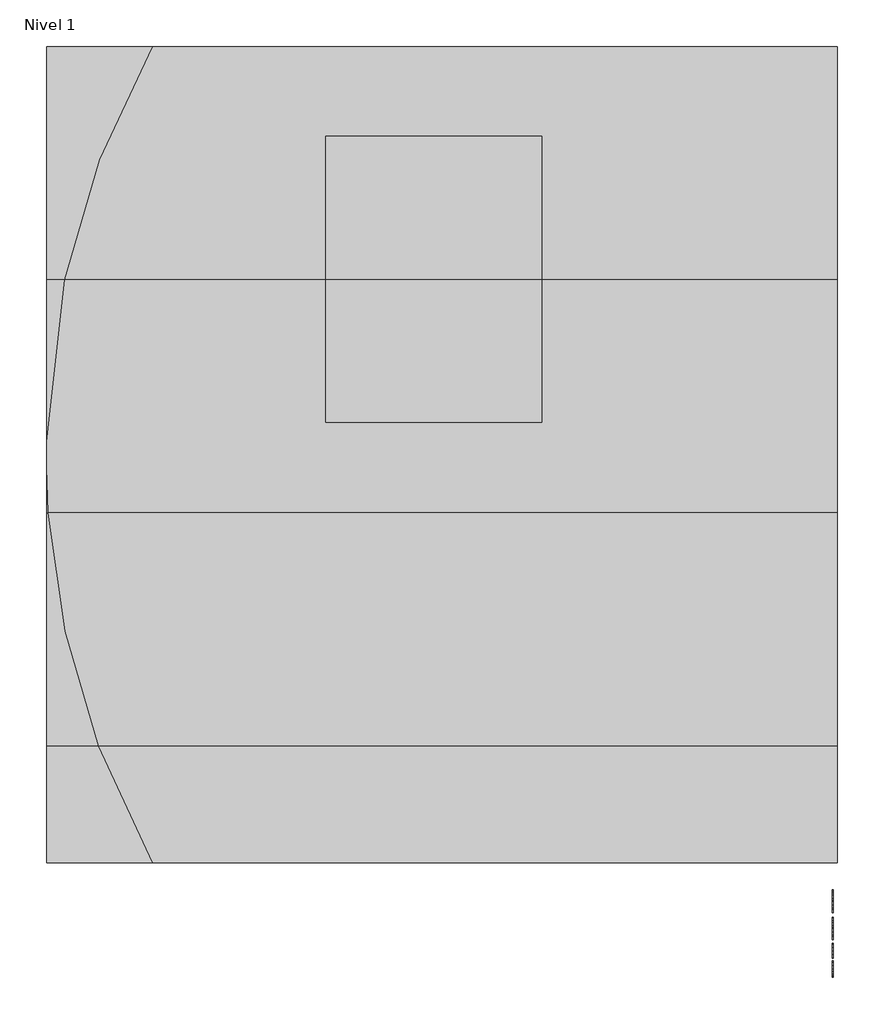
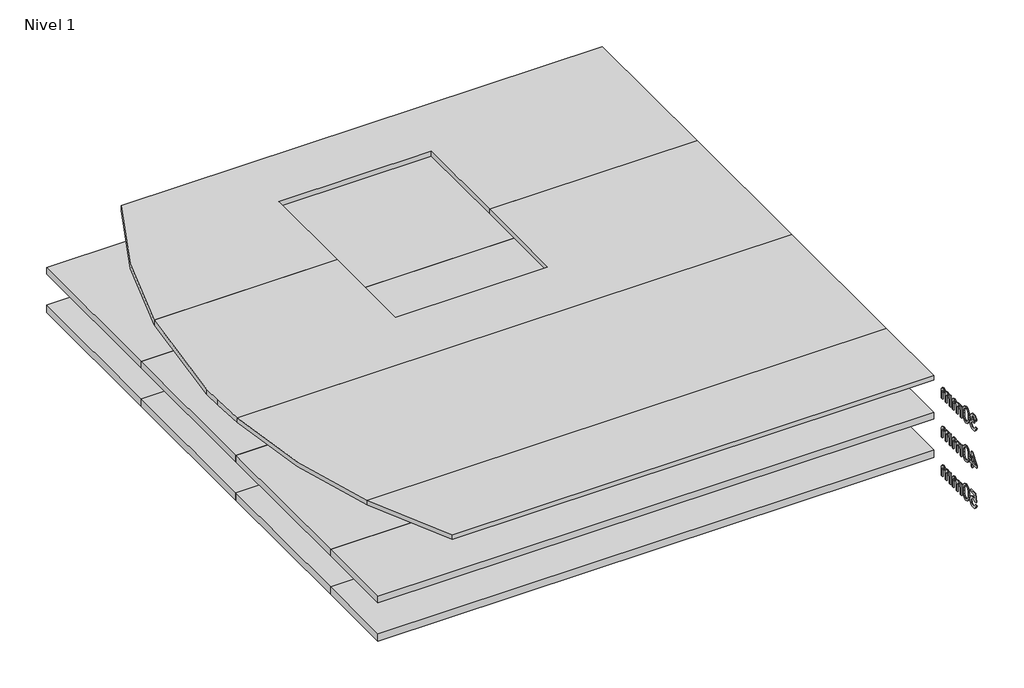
# One storey, incomplete: 12 plates, 3 proxies.
"""IFC4 building model written with IfcOpenShell, lengths in millimetres."""

from ifc_helpers import new_model, si_unit, frame, origin, place, context, project, spatial, polyline, outline, extrude, transform, mapped, element, save
from components import panel_del_sistema_d493ad30, panel_del_sistema_48dafe26, panel_del_sistema_6634fb51, panel_del_sistema_deb14117, panel_del_sistema_14d703db, panel_del_sistema_e4207b6c, panel_del_sistema_6badf2b4, panel_del_sistema_0d385535

model = new_model("IFC4")

# Units and contexts
model_context = context("Model", 3, world=origin())
ifc_project = project(units=[si_unit("LENGTHUNIT", "METRE", prefix="MILLI")], contexts=[model_context])

# Site, building, storey
site = spatial("IfcSite", under=ifc_project)
building = spatial("IfcBuilding", under=site)
storey = spatial("IfcBuildingStorey", under=building, Name="Nivel 1", Elevation=0.0)

# Proxies
placement = place(None, origin())
element("IfcBuildingElementProxy", 1, Name="100mm Arial", ObjectType="100mm Arial", at=placement, inside=storey, context=model_context, shape_type="SweptSolid", body=[
    extrude(outline(polyline([(14811.6332666, -40.4578656), (14824.1903054, -38.8882358), (14831.1187496, -52.1074622), (14844.0804586, -56.1541641), (14852.6888973, -54.7623439), (14859.3352987, -50.5868832), (14865.0006814, -36.8035712), (14859.3843496, -23.8173367), (14845.1105282, -18.6792515), (14836.3058858, -20.0526776), (14837.7038373, -7.4956389), (14839.7149256, -7.6427917), (14853.9642215, -4.0375481), (14858.7098993, 0.5364513), (14860.2917918, 7.0479627), (14855.7055296, 16.8704119), (14843.8842549, 20.7576984), (14831.9158273, 16.8336237), (14825.7599352, 5.0613999), (14813.2028965, 6.6310297), (14816.9001105, 17.9066129), (14823.4790669, 26.3249792), (14832.479913, 31.5672976), (14843.4427965, 33.3147371), (14858.5872719, 29.8689091), (14869.1822734, 20.45113), (14872.8488306, 7.7837267), (14869.3662144, -3.7922935), (14859.0655185, -12.1064266), (14872.7507287, -20.6903398), (14877.5577201, -37.0243004), (14875.1542244, -49.2625081), (14867.9437373, -59.4896275), (14857.0605616, -66.405809), (14843.6390002, -68.7112029), (14831.4988943, -66.7430342), (14821.6151314, -60.8385282), (14814.7418695, -51.8070252), (14811.6332666, -40.4578656)])), frame((9557.0230098, 0.0, 0.0), z_axis=(1.0, 0.0, 0.0), x_axis=(0.0, 1.0, 0.0)), (0.0, 0.0, 1.0), 5.0),
    extrude(outline(polyline([(14888.5451291, -17.7227583), (14892.2362118, 11.1805037), (14903.1990952, 27.8455581), (14921.5073558, 33.3147371), (14936.1735847, 30.0773756), (14946.3026023, 20.7454356), (14952.1887142, 5.883003), (14954.4695826, -17.7227583), (14950.8152881, -46.5033931), (14939.8891929, -63.2052357), (14931.6578332, -67.3347111), (14921.5073558, -68.7112029), (14908.4598077, -66.3199699), (14898.5515193, -59.146271), (14891.0467266, -42.1562542), (14888.5451291, -17.7227583)]), holes=[polyline([(14901.1021678, -17.6982329), (14902.5736958, -37.4504303), (14906.9882798, -48.8823633), (14913.5611047, -54.3362139), (14921.5073558, -56.1541641), (14929.4536069, -54.3300825), (14936.0264319, -48.8578379), (14940.4410159, -37.4197735), (14941.9125438, -17.6982329), (14940.4900668, 1.6094405), (14936.2226356, 13.1302783), (14929.6620734, 18.8508433), (14921.360203, 20.7576984), (14913.4997911, 19.0777039), (14907.1844835, 14.0377206), (14902.6227467, 1.7995129), (14901.1021678, -17.6982329)])]), frame((9557.0230098, 0.0, 0.0), z_axis=(1.0, 0.0, 0.0), x_axis=(0.0, 1.0, 0.0)), (0.0, 0.0, 1.0), 5.0),
    extrude(outline(polyline([(14968.5962512, -67.141573), (14968.5962512, 6.6310297), (14981.15329, 6.6310297), (14981.15329, -5.5090761), (14989.7862541, 4.4360005), (15002.0735128, 8.2006596), (15014.655077, 4.3624241), (15021.5712585, -6.3919929), (15031.3691823, 4.5524965), (15043.7422801, 8.2006596), (15053.181519, 6.6831464), (15060.1620798, 2.1306067), (15064.4754962, -5.5795868), (15065.9133017, -16.5700614), (15065.9133017, -67.141573), (15053.3562629, -67.141573), (15053.3562629, -21.965664), (15052.1913033, -11.4810272), (15047.972923, -6.3184165), (15040.7992241, -4.3563792), (15028.4506518, -9.3840998), (15024.7626348, -15.9262679), (15023.5332958, -25.4973312), (15023.5332958, -67.141573), (15010.9762571, -67.141573), (15010.9762571, -20.5677124), (15008.0699893, -8.4030811), (14998.5418456, -4.3563792), (14989.2466939, -7.0541805), (14983.0662764, -14.9513806), (14981.15329, -29.9364406), (14981.15329, -67.141573), (14968.5962512, -67.141573)])), frame((9557.0230098, 0.0, 0.0), z_axis=(1.0, 0.0, 0.0), x_axis=(0.0, 1.0, 0.0)), (0.0, 0.0, 1.0), 5.0),
    extrude(outline(polyline([(15084.7488598, -67.141573), (15084.7488598, 6.6310297), (15097.3058986, 6.6310297), (15097.3058986, -5.5090761), (15105.9388628, 4.4360005), (15118.2261214, 8.2006596), (15130.8076856, 4.3624241), (15137.7238671, -6.3919929), (15147.5217909, 4.5524965), (15159.8948887, 8.2006596), (15169.3341276, 6.6831464), (15176.3146884, 2.1306067), (15180.6281048, -5.5795868), (15182.0659103, -16.5700614), (15182.0659103, -67.141573), (15169.5088715, -67.141573), (15169.5088715, -21.965664), (15168.3439119, -11.4810272), (15164.1255317, -6.3184165), (15156.9518327, -4.3563792), (15144.6032604, -9.3840998), (15140.9152434, -15.9262679), (15139.6859044, -25.4973312), (15139.6859044, -67.141573), (15127.1288657, -67.141573), (15127.1288657, -20.5677124), (15124.2225979, -8.4030811), (15114.6944542, -4.3563792), (15105.3993025, -7.0541805), (15099.218885, -14.9513806), (15097.3058986, -29.9364406), (15097.3058986, -67.141573), (15084.7488598, -67.141573)])), frame((9557.0230098, 0.0, 0.0), z_axis=(1.0, 0.0, 0.0), x_axis=(0.0, 1.0, 0.0)), (0.0, 0.0, 1.0), 5.0),
])
element("IfcBuildingElementProxy", 2, Name="100mm Arial", ObjectType="100mm Arial", at=placement, inside=storey, context=model_context, shape_type="SweptSolid", body=[
    extrude(outline(polyline([(14852.4436426, -317.141573), (14852.4436426, -293.5971253), (14806.9243771, -293.5971253), (14806.9243771, -281.0400866), (14855.5829023, -218.2548927), (14865.0006814, -218.2548927), (14865.0006814, -281.0400866), (14877.5577201, -281.0400866), (14877.5577201, -293.5971253), (14865.0006814, -293.5971253), (14865.0006814, -317.141573), (14852.4436426, -317.141573)]), holes=[polyline([(14852.4436426, -281.0400866), (14852.4436426, -242.2407988), (14822.3754209, -281.0400866), (14852.4436426, -281.0400866)])]), frame((9557.0230098, 0.0, 0.0), z_axis=(1.0, 0.0, 0.0), x_axis=(0.0, 1.0, 0.0)), (0.0, 0.0, 1.0), 5.0),
    extrude(outline(polyline([(14888.5451291, -267.7227583), (14892.2362118, -238.8194963), (14903.1990952, -222.1544419), (14921.5073558, -216.6852629), (14936.1735847, -219.9226244), (14946.3026023, -229.2545644), (14952.1887142, -244.116997), (14954.4695826, -267.7227583), (14950.8152881, -296.5033931), (14939.8891929, -313.2052357), (14931.6578332, -317.3347111), (14921.5073558, -318.7112029), (14908.4598077, -316.3199699), (14898.5515193, -309.146271), (14891.0467266, -292.1562542), (14888.5451291, -267.7227583)]), holes=[polyline([(14901.1021678, -267.6982329), (14902.5736958, -287.4504303), (14906.9882798, -298.8823633), (14913.5611047, -304.3362139), (14921.5073558, -306.1541641), (14929.4536069, -304.3300825), (14936.0264319, -298.8578379), (14940.4410159, -287.4197735), (14941.9125438, -267.6982329), (14940.4900668, -248.3905595), (14936.2226356, -236.8697217), (14929.6620734, -231.1491567), (14921.360203, -229.2423016), (14913.4997911, -230.9222961), (14907.1844835, -235.9622794), (14902.6227467, -248.2004871), (14901.1021678, -267.6982329)])]), frame((9557.0230098, 0.0, 0.0), z_axis=(1.0, 0.0, 0.0), x_axis=(0.0, 1.0, 0.0)), (0.0, 0.0, 1.0), 5.0),
    extrude(outline(polyline([(14968.5962512, -317.141573), (14968.5962512, -243.3689703), (14981.15329, -243.3689703), (14981.15329, -255.5090761), (14989.7862541, -245.5639995), (15002.0735128, -241.7993404), (15014.655077, -245.6375759), (15021.5712585, -256.3919929), (15031.3691823, -245.4475035), (15043.7422801, -241.7993404), (15053.181519, -243.3168536), (15060.1620798, -247.8693933), (15064.4754962, -255.5795868), (15065.9133017, -266.5700614), (15065.9133017, -317.141573), (15053.3562629, -317.141573), (15053.3562629, -271.965664), (15052.1913033, -261.4810272), (15047.972923, -256.3184165), (15040.7992241, -254.3563792), (15028.4506518, -259.3840998), (15024.7626348, -265.9262679), (15023.5332958, -275.4973312), (15023.5332958, -317.141573), (15010.9762571, -317.141573), (15010.9762571, -270.5677124), (15008.0699893, -258.4030811), (14998.5418456, -254.3563792), (14989.2466939, -257.0541805), (14983.0662764, -264.9513806), (14981.15329, -279.9364406), (14981.15329, -317.141573), (14968.5962512, -317.141573)])), frame((9557.0230098, 0.0, 0.0), z_axis=(1.0, 0.0, 0.0), x_axis=(0.0, 1.0, 0.0)), (0.0, 0.0, 1.0), 5.0),
    extrude(outline(polyline([(15084.7488598, -317.141573), (15084.7488598, -243.3689703), (15097.3058986, -243.3689703), (15097.3058986, -255.5090761), (15105.9388628, -245.5639995), (15118.2261214, -241.7993404), (15130.8076856, -245.6375759), (15137.7238671, -256.3919929), (15147.5217909, -245.4475035), (15159.8948887, -241.7993404), (15169.3341276, -243.3168536), (15176.3146884, -247.8693933), (15180.6281048, -255.5795868), (15182.0659103, -266.5700614), (15182.0659103, -317.141573), (15169.5088715, -317.141573), (15169.5088715, -271.965664), (15168.3439119, -261.4810272), (15164.1255317, -256.3184165), (15156.9518327, -254.3563792), (15144.6032604, -259.3840998), (15140.9152434, -265.9262679), (15139.6859044, -275.4973312), (15139.6859044, -317.141573), (15127.1288657, -317.141573), (15127.1288657, -270.5677124), (15124.2225979, -258.4030811), (15114.6944542, -254.3563792), (15105.3993025, -257.0541805), (15099.218885, -264.9513806), (15097.3058986, -279.9364406), (15097.3058986, -317.141573), (15084.7488598, -317.141573)])), frame((9557.0230098, 0.0, 0.0), z_axis=(1.0, 0.0, 0.0), x_axis=(0.0, 1.0, 0.0)), (0.0, 0.0, 1.0), 5.0),
])
element("IfcBuildingElementProxy", 3, Name="100mm Arial", ObjectType="100mm Arial", at=placement, inside=storey, context=model_context, shape_type="SweptSolid", body=[
    extrude(outline(polyline([(14811.6332666, -540.4578656), (14824.1903054, -538.8882358), (14830.5178757, -551.8254193), (14843.6390002, -556.1541641), (14852.6398463, -554.6489136), (14859.3843496, -550.1331621), (14863.5965984, -543.1280758), (14865.0006814, -534.1548208), (14859.7399688, -519.2433373), (14853.1334213, -515.141453), (14843.8352039, -513.7741583), (14832.8110068, -515.9569248), (14825.7599352, -521.6223075), (14813.2028965, -520.0526776), (14824.1903054, -468.2548927), (14872.8488306, -468.2548927), (14872.8488306, -480.8119315), (14834.3438484, -480.8119315), (14828.9727713, -508.4766575), (14837.9429606, -503.032004), (14847.3423456, -501.2171195), (14859.0747156, -503.467331), (14868.8143914, -510.2179656), (14875.371888, -520.5063988), (14877.5577201, -533.3700059), (14875.5895515, -545.9270446), (14869.6850454, -556.6691989), (14858.3788055, -565.7007019), (14843.5899493, -568.7112029), (14831.2567054, -566.7767567), (14821.4311904, -560.9734182), (14814.6958842, -551.9756378), (14811.6332666, -540.4578656)])), frame((9557.0230098, 0.0, 0.0), z_axis=(1.0, 0.0, 0.0), x_axis=(0.0, 1.0, 0.0)), (0.0, 0.0, 1.0), 5.0),
    extrude(outline(polyline([(14888.5451291, -517.7227583), (14892.2362118, -488.8194963), (14903.1990952, -472.1544419), (14921.5073558, -466.6852629), (14936.1735847, -469.9226244), (14946.3026023, -479.2545644), (14952.1887142, -494.116997), (14954.4695826, -517.7227583), (14950.8152881, -546.5033931), (14939.8891929, -563.2052357), (14931.6578332, -567.3347111), (14921.5073558, -568.7112029), (14908.4598077, -566.3199699), (14898.5515193, -559.146271), (14891.0467266, -542.1562542), (14888.5451291, -517.7227583)]), holes=[polyline([(14901.1021678, -517.6982329), (14902.5736958, -537.4504303), (14906.9882798, -548.8823633), (14913.5611047, -554.3362139), (14921.5073558, -556.1541641), (14929.4536069, -554.3300825), (14936.0264319, -548.8578379), (14940.4410159, -537.4197735), (14941.9125438, -517.6982329), (14940.4900668, -498.3905595), (14936.2226356, -486.8697217), (14929.6620734, -481.1491567), (14921.360203, -479.2423016), (14913.4997911, -480.9222961), (14907.1844835, -485.9622794), (14902.6227467, -498.2004871), (14901.1021678, -517.6982329)])]), frame((9557.0230098, 0.0, 0.0), z_axis=(1.0, 0.0, 0.0), x_axis=(0.0, 1.0, 0.0)), (0.0, 0.0, 1.0), 5.0),
    extrude(outline(polyline([(14968.5962512, -567.141573), (14968.5962512, -493.3689703), (14981.15329, -493.3689703), (14981.15329, -505.5090761), (14989.7862541, -495.5639995), (15002.0735128, -491.7993404), (15014.655077, -495.6375759), (15021.5712585, -506.3919929), (15031.3691823, -495.4475035), (15043.7422801, -491.7993404), (15053.181519, -493.3168536), (15060.1620798, -497.8693933), (15064.4754962, -505.5795868), (15065.9133017, -516.5700614), (15065.9133017, -567.141573), (15053.3562629, -567.141573), (15053.3562629, -521.965664), (15052.1913033, -511.4810272), (15047.972923, -506.3184165), (15040.7992241, -504.3563792), (15028.4506518, -509.3840998), (15024.7626348, -515.9262679), (15023.5332958, -525.4973312), (15023.5332958, -567.141573), (15010.9762571, -567.141573), (15010.9762571, -520.5677124), (15008.0699893, -508.4030811), (14998.5418456, -504.3563792), (14989.2466939, -507.0541805), (14983.0662764, -514.9513806), (14981.15329, -529.9364406), (14981.15329, -567.141573), (14968.5962512, -567.141573)])), frame((9557.0230098, 0.0, 0.0), z_axis=(1.0, 0.0, 0.0), x_axis=(0.0, 1.0, 0.0)), (0.0, 0.0, 1.0), 5.0),
    extrude(outline(polyline([(15084.7488598, -567.141573), (15084.7488598, -493.3689703), (15097.3058986, -493.3689703), (15097.3058986, -505.5090761), (15105.9388628, -495.5639995), (15118.2261214, -491.7993404), (15130.8076856, -495.6375759), (15137.7238671, -506.3919929), (15147.5217909, -495.4475035), (15159.8948887, -491.7993404), (15169.3341276, -493.3168536), (15176.3146884, -497.8693933), (15180.6281048, -505.5795868), (15182.0659103, -516.5700614), (15182.0659103, -567.141573), (15169.5088715, -567.141573), (15169.5088715, -521.965664), (15168.3439119, -511.4810272), (15164.1255317, -506.3184165), (15156.9518327, -504.3563792), (15144.6032604, -509.3840998), (15140.9152434, -515.9262679), (15139.6859044, -525.4973312), (15139.6859044, -567.141573), (15127.1288657, -567.141573), (15127.1288657, -520.5677124), (15124.2225979, -508.4030811), (15114.6944542, -504.3563792), (15105.3993025, -507.0541805), (15099.218885, -514.9513806), (15097.3058986, -529.9364406), (15097.3058986, -567.141573), (15084.7488598, -567.141573)])), frame((9557.0230098, 0.0, 0.0), z_axis=(1.0, 0.0, 0.0), x_axis=(0.0, 1.0, 0.0)), (0.0, 0.0, 1.0), 5.0),
])

# Plates
panel_del_sistema_shape = panel_del_sistema_d493ad30(model_context)
element("IfcPlate", 4, ObjectType="Panel del sistema : HIANSA PANEL - PANELES DE CUBIERTA CON TAPAJUNTA - AGRO 3GR - Esp. 40mm", at=placement, inside=storey, context=model_context, shape_type="MappedRepresentation", body=[
    mapped(panel_del_sistema_shape, transform((9579.0356399, 18298.3330794, -279.5990172), x_axis=(0.0, -1.0, 0.0), y_axis=(0.0, 0.0, 1.0), z_axis=(-1.0, 0.0, 0.0))),
])
element("IfcPlate", 5, ObjectType="Panel del sistema : HIANSA PANEL - PANELES DE CUBIERTA CON TAPAJUNTA - AGRO 3GR - Esp. 40mm", at=placement, inside=storey, context=model_context, shape_type="MappedRepresentation", body=[
    mapped(panel_del_sistema_shape, transform((9579.0356399, 17298.3330793, -279.5990172), x_axis=(0.0, -1.0, 0.0), y_axis=(0.0, 0.0, 1.0), z_axis=(-1.0, 0.0, 0.0))),
])
element("IfcPlate", 6, ObjectType="Panel del sistema : HIANSA PANEL - PANELES DE CUBIERTA CON TAPAJUNTA - AGRO 3GR - Esp. 40mm", at=placement, inside=storey, context=model_context, shape_type="MappedRepresentation", body=[
    mapped(panel_del_sistema_shape, transform((9579.0356399, 16298.3330793, -279.5990172), x_axis=(0.0, -1.0, 0.0), y_axis=(0.0, 0.0, 1.0), z_axis=(-1.0, 0.0, 0.0))),
])
panel_del_sistema_2_shape = panel_del_sistema_48dafe26(model_context)
element("IfcPlate", 7, ObjectType="Panel del sistema : HIANSA PANEL - PANELES DE CUBIERTA CON TAPAJUNTA - AGRO 3GR - Esp. 40mm", at=placement, inside=storey, context=model_context, shape_type="MappedRepresentation", body=[
    mapped(panel_del_sistema_2_shape, transform((9579.0356399, 15548.3330794, -279.5990172), x_axis=(0.0, -1.0, 0.0), y_axis=(0.0, 0.0, 1.0), z_axis=(-1.0, 0.0, 0.0))),
])
panel_del_sistema_3_shape = panel_del_sistema_6634fb51(model_context)
element("IfcPlate", 8, ObjectType="Panel del sistema : HIANSA PANEL - PANELES DE CUBIERTA CON TAPAJUNTA - AGRO 3GR - Esp. 50mm", at=placement, inside=storey, context=model_context, shape_type="MappedRepresentation", body=[
    mapped(panel_del_sistema_3_shape, transform((9579.0356399, 18298.3330794, -529.5962409), x_axis=(0.0, -1.0, 0.0), y_axis=(0.0, 0.0, 1.0), z_axis=(-1.0, 0.0, 0.0))),
])
element("IfcPlate", 9, ObjectType="Panel del sistema : HIANSA PANEL - PANELES DE CUBIERTA CON TAPAJUNTA - AGRO 3GR - Esp. 50mm", at=placement, inside=storey, context=model_context, shape_type="MappedRepresentation", body=[
    mapped(panel_del_sistema_3_shape, transform((9579.0356399, 17298.3330793, -529.5962409), x_axis=(0.0, -1.0, 0.0), y_axis=(0.0, 0.0, 1.0), z_axis=(-1.0, 0.0, 0.0))),
])
element("IfcPlate", 10, ObjectType="Panel del sistema : HIANSA PANEL - PANELES DE CUBIERTA CON TAPAJUNTA - AGRO 3GR - Esp. 50mm", at=placement, inside=storey, context=model_context, shape_type="MappedRepresentation", body=[
    mapped(panel_del_sistema_3_shape, transform((9579.0356399, 16298.3330793, -529.5962409), x_axis=(0.0, -1.0, 0.0), y_axis=(0.0, 0.0, 1.0), z_axis=(-1.0, 0.0, 0.0))),
])
panel_del_sistema_4_shape = panel_del_sistema_deb14117(model_context)
element("IfcPlate", 11, ObjectType="Panel del sistema : HIANSA PANEL - PANELES DE CUBIERTA CON TAPAJUNTA - AGRO 3GR - Esp. 50mm", at=placement, inside=storey, context=model_context, shape_type="MappedRepresentation", body=[
    mapped(panel_del_sistema_4_shape, transform((9579.0356399, 15548.3330794, -529.5962409), x_axis=(0.0, -1.0, 0.0), y_axis=(0.0, 0.0, 1.0), z_axis=(-1.0, 0.0, 0.0))),
])
panel_del_sistema_5_shape = panel_del_sistema_14d703db(model_context)
element("IfcPlate", 12, ObjectType="Panel del sistema : HIANSA PANEL - PANELES DE CUBIERTA CON TAPAJUNTA - AGRO 3GR - Esp. 30mm", at=placement, inside=storey, context=model_context, shape_type="MappedRepresentation", body=[
    mapped(panel_del_sistema_5_shape, transform((9579.0356399, 18298.3330794, -29.5962409), x_axis=(0.0, -1.0, 0.0), y_axis=(0.0, 0.0, 1.0), z_axis=(-1.0, 0.0, 0.0))),
])
panel_del_sistema_6_shape = panel_del_sistema_e4207b6c(model_context)
element("IfcPlate", 13, ObjectType="Panel del sistema : HIANSA PANEL - PANELES DE CUBIERTA CON TAPAJUNTA - AGRO 3GR - Esp. 30mm", at=placement, inside=storey, context=model_context, shape_type="MappedRepresentation", body=[
    mapped(panel_del_sistema_6_shape, transform((9579.0356399, 17298.3330793, -29.5962409), x_axis=(0.0, -1.0, 0.0), y_axis=(0.0, 0.0, 1.0), z_axis=(-1.0, 0.0, 0.0))),
])
panel_del_sistema_7_shape = panel_del_sistema_6badf2b4(model_context)
element("IfcPlate", 14, ObjectType="Panel del sistema : HIANSA PANEL - PANELES DE CUBIERTA CON TAPAJUNTA - AGRO 3GR - Esp. 30mm", at=placement, inside=storey, context=model_context, shape_type="MappedRepresentation", body=[
    mapped(panel_del_sistema_7_shape, transform((9579.0356399, 16298.3330793, -29.5962409), x_axis=(0.0, -1.0, 0.0), y_axis=(0.0, 0.0, 1.0), z_axis=(-1.0, 0.0, 0.0))),
])
panel_del_sistema_8_shape = panel_del_sistema_0d385535(model_context)
element("IfcPlate", 15, ObjectType="Panel del sistema : HIANSA PANEL - PANELES DE CUBIERTA CON TAPAJUNTA - AGRO 3GR - Esp. 30mm", at=placement, inside=storey, context=model_context, shape_type="MappedRepresentation", body=[
    mapped(panel_del_sistema_8_shape, transform((9579.0356399, 15548.3330794, -29.5962409), x_axis=(0.0, -1.0, 0.0), y_axis=(0.0, 0.0, 1.0), z_axis=(-1.0, 0.0, 0.0))),
])

save(model, "model.ifc")
